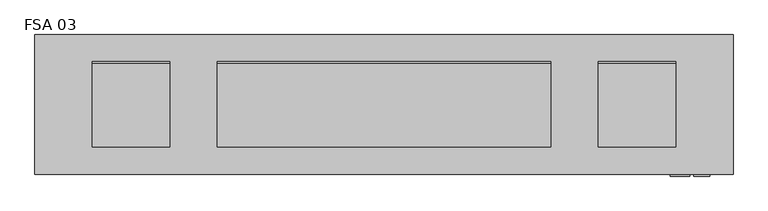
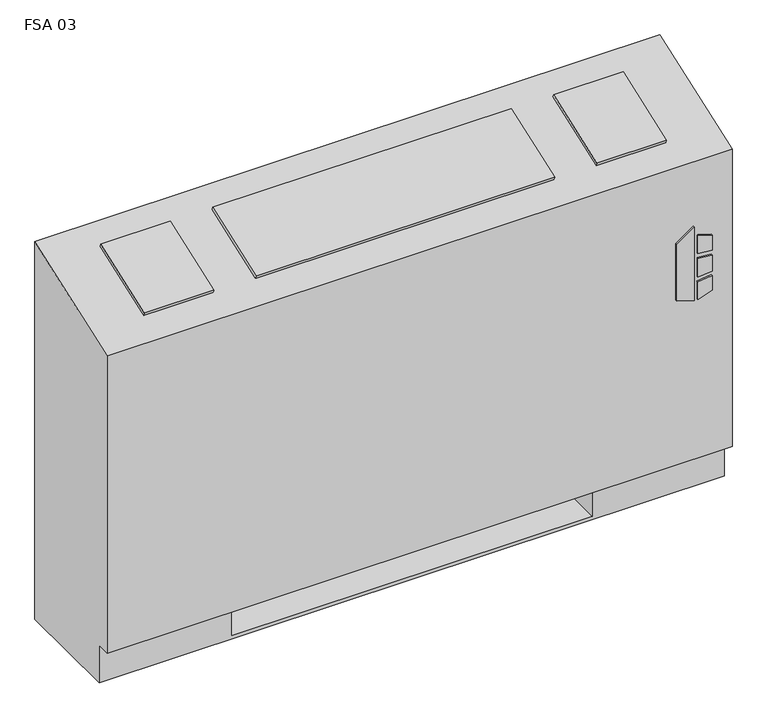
"""IFC4 building model written with IfcOpenShell, lengths in millimetres: proxy geometry, Vertical_Fan_Coil_Unit_-_FSA_-_IEC_-_4-Pipe_TS-FR_RH_2022 : FSA 03."""

from ifc_helpers import new_model, si_unit, point, frame, frame_2d, origin, place, context, project, spatial, polyline, circle_curve, trimmed, segment, composite_curve, outline, extrude, source, transform, mapped, element, save
from ifc_brep_helpers import plane_surface, revolved_surface, advanced_brep


def fsa_03_6adf4142(model_context):
    return source(origin(), model_context, "Body", "SolidModel", [
        extrude(outline(polyline([(391.6086829, 620.7868862), (381.6606126, 652.9602728), (523.831537, 652.9602728), (500.8095309, 620.7868862), (391.6086829, 620.7868862)])), frame((0.0, 12.7, 0.0), z_axis=(0.0, 1.0, 0.0), x_axis=(0.0, 0.0, 1.0)), (0.0, 0.0, 1.0), 3.175),
        extrude(outline(polyline([(470.6079683, 659.7186058), (467.4055757, 685.8), (496.6344168, 685.8), (504.6988318, 659.7186058), (470.6079683, 659.7186058)])), frame((0.0, 12.7, 0.0), z_axis=(0.0, 1.0, 0.0), x_axis=(0.0, 0.0, 1.0)), (0.0, 0.0, 1.0), 3.175),
        extrude(outline(polyline([(418.7444414, 685.8), (415.0789404, 659.7186058), (381.6606126, 659.7186058), (390.2948498, 685.8), (418.7444414, 685.8)])), frame((0.0, 12.7, 0.0), z_axis=(0.0, 1.0, 0.0), x_axis=(0.0, 0.0, 1.0)), (0.0, 0.0, 1.0), 3.175),
        extrude(outline(polyline([(458.0596028, 685.8), (460.3414292, 659.7186058), (424.4038806, 659.7186058), (427.1451456, 685.8), (458.0596028, 685.8)])), frame((0.0, 12.7, 0.0), z_axis=(0.0, 1.0, 0.0), x_axis=(0.0, 0.0, 1.0)), (0.0, 0.0, 1.0), 3.175),
        extrude(outline(polyline([(-298.45, 81.534), (-298.45, 223.266), (-177.8, 223.266), (-177.8, 81.534), (-298.45, 81.534)])), frame((0.0, 0.0, 327.025), z_axis=(0.0, 0.0, 1.0), x_axis=(1.0, 0.0, 0.0)), (0.0, 0.0, 1.0), 260.35),
        extrude(outline(composite_curve([segment(trimmed(circle_curve(frame_2d((546.1, 130.175)), 9.525), [point((536.575, 130.175))], [point((555.625, 130.175))], False, "CARTESIAN"), True, "CONTINUOUS"), segment(trimmed(circle_curve(frame_2d((546.1, 130.175)), 9.525), [point((555.625, 130.175))], [point((536.575, 130.175))], False, "CARTESIAN"), True, "CONTINUOUS")], self_intersect=False)), frame((0.0, 0.0, 101.6), z_axis=(0.0, 0.0, 1.0), x_axis=(1.0, 0.0, 0.0)), (0.0, 0.0, 1.0), 25.4),
        extrude(outline(polyline([(647.7, 196.85), (647.7, 63.5), (482.6, 63.5), (482.6, 196.85), (647.7, 196.85)])), frame((0.0, 0.0, 127.0), z_axis=(0.0, 0.0, 1.0), x_axis=(1.0, 0.0, 0.0)), (0.0, 0.0, 1.0), 50.8),
        extrude(outline(polyline([(0.0, -146.0500001), (0.0, 0.0), (127.0, 0.0), (127.0, -146.0500001), (0.0, -146.0500001)])), frame((-324.993, 200.4217127, 714.3418685), z_axis=(0.0, -0.3396444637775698, 0.9405538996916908), x_axis=(1.0, 0.0, 0.0)), (0.0, 0.0, 1.0), 6.35),
        extrude(outline(polyline([(0.0, -146.0500001), (0.0, 0.0), (546.1, 0.0), (546.1, -146.0500001), (0.0, -146.0500001)])), frame((425.45, 63.0538156, 664.7367945), z_axis=(0.0, -0.33964446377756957, 0.9405538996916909), x_axis=(-1.0, 0.0, 0.0)), (0.0, 0.0, 1.0), 6.35),
        extrude(outline(polyline([(0.0, -146.0500001), (0.0, 0.0), (127.0, 0.0), (127.0, -146.0500001), (0.0, -146.0500001)])), frame((629.793, 63.0538156, 664.7367945), z_axis=(0.0, -0.3396444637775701, 0.9405538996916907), x_axis=(-1.0, 0.0, 0.0)), (0.0, 0.0, 1.0), 6.35),
        extrude(outline(composite_curve([segment(trimmed(circle_curve(frame_2d((117.475, 472.44)), 7.9375), [point((117.475, 480.3775))], [point((117.475, 464.5025))], False, "CARTESIAN"), True, "CONTINUOUS"), segment(trimmed(circle_curve(frame_2d((117.475, 472.44)), 7.9375), [point((117.475, 464.5025))], [point((117.475, 480.3775))], False, "CARTESIAN"), True, "CONTINUOUS")], self_intersect=False)), frame((482.6, 0.0, 0.0), z_axis=(1.0, 0.0, 0.0), x_axis=(0.0, 1.0, 0.0)), (0.0, 0.0, 1.0), 50.8),
        extrude(outline(composite_curve([segment(trimmed(circle_curve(frame_2d((164.0586, 445.897)), 7.9375), [point((164.0586, 453.8345))], [point((164.0586, 437.9595))], False, "CARTESIAN"), True, "CONTINUOUS"), segment(trimmed(circle_curve(frame_2d((164.0586, 445.897)), 7.9375), [point((164.0586, 437.9595))], [point((164.0586, 453.8345))], False, "CARTESIAN"), True, "CONTINUOUS")], self_intersect=False)), frame((482.6, 0.0, 0.0), z_axis=(1.0, 0.0, 0.0), x_axis=(0.0, 1.0, 0.0)), (0.0, 0.0, 1.0), 50.8),
        extrude(outline(composite_curve([segment(trimmed(circle_curve(frame_2d((130.175, 554.99)), 7.9502), [point((130.175, 562.9402))], [point((130.175, 547.0398))], False, "CARTESIAN"), True, "CONTINUOUS"), segment(trimmed(circle_curve(frame_2d((130.175, 554.99)), 7.9502), [point((130.175, 547.0398))], [point((130.175, 562.9402))], False, "CARTESIAN"), True, "CONTINUOUS")], self_intersect=False)), frame((482.6, 0.0, 0.0), z_axis=(1.0, 0.0, 0.0), x_axis=(0.0, 1.0, 0.0)), (0.0, 0.0, 1.0), 50.8),
        extrude(outline(composite_curve([segment(trimmed(circle_curve(frame_2d((53.975, 416.56)), 7.9502), [point((53.975, 424.5102))], [point((53.975, 408.6098))], False, "CARTESIAN"), True, "CONTINUOUS"), segment(trimmed(circle_curve(frame_2d((53.975, 416.56)), 7.9502), [point((53.975, 408.6098))], [point((53.975, 424.5102))], False, "CARTESIAN"), True, "CONTINUOUS")], self_intersect=False)), frame((482.6, 0.0, 0.0), z_axis=(1.0, 0.0, 0.0), x_axis=(0.0, 1.0, 0.0)), (0.0, 0.0, 1.0), 50.8),
        advanced_brep(
        [(-419.1, 244.475, 0.0), (723.9, 244.475, 0.0), (723.9, 41.275, 0.0), (-419.1, 41.275, 0.0), (-419.1, 244.475, 730.25), (723.9, 244.475, 730.25), (482.6, 244.475, 73.025), (711.2, 244.475, 73.025), (711.2, 244.475, 654.05), (482.6, 244.475, 654.05), (482.6, 244.475, 414.8650565), (511.175, 244.475, 414.8650565), (511.175, 244.475, 385.2349435), (482.6, 244.475, 385.2349435), (482.6, 244.475, 287.3375), (511.175, 244.475, 287.3375), (511.175, 244.475, 258.7625), (482.6, 244.475, 258.7625), (482.6, 244.475, 141.2875), (511.175, 244.475, 141.2875), (511.175, 244.475, 112.7125), (482.6, 244.475, 112.7125), (-177.8, 244.475, 654.05), (-406.4, 244.475, 654.05), (-406.4, 244.475, 73.025), (-177.8, 244.475, 73.025), (-177.8, 244.475, 112.7125), (-206.375, 244.475, 112.7125), (-206.375, 244.475, 141.2875), (-177.8, 244.475, 141.2875), (-177.8, 244.475, 258.7625), (-206.375, 244.475, 258.7625), (-206.375, 244.475, 287.3375), (-177.8, 244.475, 287.3375), (-177.8, 244.475, 385.2349435), (-206.375, 244.475, 385.2349435), (-206.375, 244.475, 414.8650565), (-177.8, 244.475, 414.8650565), (500.8626, 244.475, 127.0), (489.7374, 244.475, 127.0), (500.8626, 244.475, 400.05), (489.7374, 244.475, 400.05), (500.8626, 244.475, 273.05), (489.7374, 244.475, 273.05), (-184.9374, 244.475, 127.0), (-196.0626, 244.475, 127.0), (-184.9374, 244.475, 273.05), (-196.0626, 244.475, 273.05), (-184.9374, 244.475, 400.05), (-196.0626, 244.475, 400.05), (-419.1, 41.275, 73.025), (-419.1, 15.875, 73.025), (-419.1, 15.875, 647.7), (723.9, 15.875, 73.025), (723.9, 15.875, 647.7), (723.9, 41.275, 73.025), (-177.8, 41.275, 73.025), (-177.8, 225.425, 73.025), (482.6, 225.425, 73.025), (482.6, 41.275, 73.025), (482.6, 41.275, 6.35), (-177.8, 41.275, 6.35), (482.6, 41.275, 654.05), (711.2, 41.275, 654.05), (711.2, 41.275, 73.025), (482.6, 41.275, 73.025), (-177.8, 41.275, 654.05), (-177.8, 41.275, 73.025), (-406.4, 41.275, 73.025), (-406.4, 41.275, 654.05), (482.6, 225.425, 73.025), (482.6, 238.125, 112.7125), (482.6, 238.125, 141.2875), (482.6, 238.125, 258.7625), (482.6, 238.125, 287.3375), (482.6, 238.125, 385.2349435), (482.6, 238.125, 414.8650565), (-177.8, 225.425, 73.025), (-177.8, 238.125, 414.8650565), (-177.8, 238.125, 385.2349435), (-177.8, 238.125, 287.3375), (-177.8, 238.125, 258.7625), (-177.8, 238.125, 141.2875), (-177.8, 238.125, 112.7125), (-177.8, 225.425, 6.35), (482.6, 225.425, 6.35), (511.175, 238.125, 112.7125), (511.175, 238.125, 141.2875), (489.7374, 238.125, 127.0), (500.8626, 238.125, 127.0), (511.175, 238.125, 258.7625), (511.175, 238.125, 287.3375), (489.7374, 238.125, 273.05), (500.8626, 238.125, 273.05), (511.175, 238.125, 385.2349435), (511.175, 238.125, 414.8650565), (489.7374, 238.125, 400.05), (500.8626, 238.125, 400.05), (-206.375, 238.125, 141.2875), (-206.375, 238.125, 112.7125), (-196.0626, 238.125, 127.0), (-184.9374, 238.125, 127.0), (-206.375, 238.125, 287.3375), (-206.375, 238.125, 258.7625), (-196.0626, 238.125, 273.05), (-184.9374, 238.125, 273.05), (-206.375, 238.125, 414.8650565), (-206.375, 238.125, 385.2349435), (-196.0626, 238.125, 400.05), (-184.9374, 238.125, 400.05)],
        [
            (0, 1),
            (1, 2),
            (2, 3),
            (3, 0),
            (0, 4),
            (4, 5),
            (5, 1),
            (6, 7),
            (7, 8),
            (8, 9),
            (9, 10),
            (10, 11),
            (11, 12),
            (12, 13),
            (13, 14),
            (14, 15),
            (15, 16),
            (16, 17),
            (17, 18),
            (18, 19),
            (19, 20),
            (20, 21),
            (21, 6),
            (22, 23),
            (23, 24),
            (24, 25),
            (25, 26),
            (26, 27),
            (27, 28),
            (28, 29),
            (29, 30),
            (30, 31),
            (31, 32),
            (32, 33),
            (33, 34),
            (34, 35),
            (35, 36),
            (36, 37),
            (37, 22),
            (38, 39, circle_curve(frame((495.3, 244.475, 127.0), z_axis=(0.0, -1.0, 0.0), x_axis=(-1.0, 0.0, 0.0)), 5.5626)),
            (39, 38, circle_curve(frame((495.3, 244.475, 127.0), z_axis=(0.0, -1.0, 0.0), x_axis=(-1.0, 0.0, 0.0)), 5.5626)),
            (40, 41, circle_curve(frame((495.3, 244.475, 400.05), z_axis=(0.0, -1.0, 0.0), x_axis=(-1.0, 0.0, 0.0)), 5.5626)),
            (41, 40, circle_curve(frame((495.3, 244.475, 400.05), z_axis=(0.0, -1.0, 0.0), x_axis=(-1.0, 0.0, 0.0)), 5.5626)),
            (42, 43, circle_curve(frame((495.3, 244.475, 273.05), z_axis=(0.0, -1.0, 0.0), x_axis=(-1.0, 0.0, 0.0)), 5.5626)),
            (43, 42, circle_curve(frame((495.3, 244.475, 273.05), z_axis=(0.0, -1.0, 0.0), x_axis=(-1.0, 0.0, 0.0)), 5.5626)),
            (44, 45, circle_curve(frame((-190.5, 244.475, 127.0), z_axis=(0.0, -1.0, 0.0), x_axis=(-1.0, 0.0, 0.0)), 5.5626)),
            (45, 44, circle_curve(frame((-190.5, 244.475, 127.0), z_axis=(0.0, -1.0, 0.0), x_axis=(-1.0, 0.0, 0.0)), 5.5626)),
            (46, 47, circle_curve(frame((-190.5, 244.475, 273.05), z_axis=(0.0, -1.0, 0.0), x_axis=(-1.0, 0.0, 0.0)), 5.5626)),
            (47, 46, circle_curve(frame((-190.5, 244.475, 273.05), z_axis=(0.0, -1.0, 0.0), x_axis=(-1.0, 0.0, 0.0)), 5.5626)),
            (48, 49, circle_curve(frame((-190.5, 244.475, 400.05), z_axis=(0.0, -1.0, 0.0), x_axis=(-1.0, 0.0, 0.0)), 5.5626)),
            (49, 48, circle_curve(frame((-190.5, 244.475, 400.05), z_axis=(0.0, -1.0, 0.0), x_axis=(-1.0, 0.0, 0.0)), 5.5626)),
            (3, 50),
            (50, 51),
            (51, 52),
            (52, 4),
            (51, 53),
            (53, 54),
            (54, 52),
            (5, 54),
            (53, 55),
            (55, 2),
            (50, 56),
            (56, 57),
            (57, 58),
            (58, 59),
            (59, 55),
            (59, 60),
            (60, 61),
            (61, 56),
            (62, 63),
            (63, 64),
            (64, 65),
            (65, 62),
            (66, 67),
            (67, 68),
            (68, 69),
            (69, 66),
            (65, 70),
            (70, 6),
            (21, 71),
            (71, 72),
            (72, 18),
            (17, 73),
            (73, 74),
            (74, 14),
            (13, 75),
            (75, 76),
            (76, 10),
            (9, 62),
            (64, 7),
            (63, 8),
            (69, 23),
            (22, 66),
            (68, 24),
            (67, 77),
            (77, 25),
            (37, 78),
            (78, 79),
            (79, 34),
            (33, 80),
            (80, 81),
            (81, 30),
            (29, 82),
            (82, 83),
            (83, 26),
            (57, 84),
            (84, 85),
            (85, 58),
            (85, 60),
            (84, 61),
            (71, 86),
            (86, 87),
            (87, 72),
            (88, 89, circle_curve(frame((495.3, 238.125, 127.0), z_axis=(0.0, 1.0, 0.0), x_axis=(-1.0, 0.0, 0.0)), 5.5626)),
            (89, 88, circle_curve(frame((495.3, 238.125, 127.0), z_axis=(0.0, 1.0, 0.0), x_axis=(-1.0, 0.0, 0.0)), 5.5626)),
            (73, 90),
            (90, 91),
            (91, 74),
            (92, 93, circle_curve(frame((495.3, 238.125, 273.05), z_axis=(0.0, 1.0, 0.0), x_axis=(-1.0, 0.0, 0.0)), 5.5626)),
            (93, 92, circle_curve(frame((495.3, 238.125, 273.05), z_axis=(0.0, 1.0, 0.0), x_axis=(-1.0, 0.0, 0.0)), 5.5626)),
            (75, 94),
            (94, 95),
            (95, 76),
            (96, 97, circle_curve(frame((495.3, 238.125, 400.05), z_axis=(0.0, 1.0, 0.0), x_axis=(-1.0, 0.0, 0.0)), 5.5626)),
            (97, 96, circle_curve(frame((495.3, 238.125, 400.05), z_axis=(0.0, 1.0, 0.0), x_axis=(-1.0, 0.0, 0.0)), 5.5626)),
            (98, 99),
            (99, 83),
            (82, 98),
            (100, 101, circle_curve(frame((-190.5, 238.125, 127.0), z_axis=(0.0, 1.0, 0.0), x_axis=(-1.0, 0.0, 0.0)), 5.5626)),
            (101, 100, circle_curve(frame((-190.5, 238.125, 127.0), z_axis=(0.0, 1.0, 0.0), x_axis=(-1.0, 0.0, 0.0)), 5.5626)),
            (102, 103),
            (103, 81),
            (80, 102),
            (104, 105, circle_curve(frame((-190.5, 238.125, 273.05), z_axis=(0.0, 1.0, 0.0), x_axis=(-1.0, 0.0, 0.0)), 5.5626)),
            (105, 104, circle_curve(frame((-190.5, 238.125, 273.05), z_axis=(0.0, 1.0, 0.0), x_axis=(-1.0, 0.0, 0.0)), 5.5626)),
            (106, 107),
            (107, 79),
            (78, 106),
            (108, 109, circle_curve(frame((-190.5, 238.125, 400.05), z_axis=(0.0, 1.0, 0.0), x_axis=(-1.0, 0.0, 0.0)), 5.5626)),
            (109, 108, circle_curve(frame((-190.5, 238.125, 400.05), z_axis=(0.0, 1.0, 0.0), x_axis=(-1.0, 0.0, 0.0)), 5.5626)),
            (87, 19),
            (86, 20),
            (91, 15),
            (90, 16),
            (95, 11),
            (94, 12),
            (28, 98),
            (99, 27),
            (32, 102),
            (103, 31),
            (36, 106),
            (107, 35),
            (88, 39),
            (38, 89),
            (96, 41),
            (40, 97),
            (92, 43),
            (42, 93),
            (100, 45),
            (44, 101),
            (104, 47),
            (46, 105),
            (108, 49),
            (48, 109),
        ],
        [
            plane_surface(frame((-419.1, 244.475, 0.0), z_axis=(0.0, 0.0, -1.0), x_axis=(1.0, 0.0, 0.0))),
            plane_surface(frame((723.9, 244.475, 730.25), z_axis=(0.0, 1.0, 0.0), x_axis=(0.0, 0.0, -1.0))),
            plane_surface(frame((-419.1, 244.475, 730.25), z_axis=(-1.0, 0.0, 0.0), x_axis=(0.0, 0.0, -1.0))),
            plane_surface(frame((-419.1, 15.875, 730.25), z_axis=(0.0, -1.0, 0.0), x_axis=(0.0, 0.0, -1.0))),
            plane_surface(frame((723.9, 15.875, 730.25), z_axis=(1.0, 0.0, 0.0), x_axis=(0.0, 0.0, -1.0))),
            plane_surface(frame((-419.1, 15.875, 73.025), z_axis=(0.0, 0.0, -1.0), x_axis=(1.0, 0.0, 0.0))),
            plane_surface(frame((-419.1, 41.275, 73.025), z_axis=(0.0, -1.0, 0.0), x_axis=(1.0, 0.0, 0.0))),
            plane_surface(frame((482.6, 41.275, 654.05), z_axis=(0.0, 1.0, 0.0), x_axis=(0.0, 0.0, -1.0))),
            plane_surface(frame((482.6, 41.275, 654.05), z_axis=(1.0, 0.0, 0.0), x_axis=(0.0, 1.0, 0.0))),
            plane_surface(frame((482.6, 41.275, 73.025), z_axis=(0.0, 0.0, 1.0), x_axis=(0.0, 1.0, 0.0))),
            plane_surface(frame((711.2, 41.275, 73.025), z_axis=(-1.0, 0.0, 0.0), x_axis=(0.0, 1.0, 0.0))),
            plane_surface(frame((711.2, 41.275, 654.05), z_axis=(0.0, 0.0, -1.0), x_axis=(0.0, 1.0, 0.0))),
            plane_surface(frame((-177.8, 41.275, 654.05), z_axis=(0.0, 0.0, -1.0), x_axis=(0.0, 1.0, 0.0))),
            plane_surface(frame((-406.4, 41.275, 654.05), z_axis=(1.0, 0.0, 0.0), x_axis=(0.0, 1.0, 0.0))),
            plane_surface(frame((-406.4, 41.275, 73.025), z_axis=(0.0, 0.0, 1.0), x_axis=(0.0, 1.0, 0.0))),
            plane_surface(frame((-177.8, 41.275, 73.025), z_axis=(-1.0, 0.0, 0.0), x_axis=(0.0, 1.0, 0.0))),
            plane_surface(frame((482.6, 225.425, 73.025), z_axis=(0.0, -1.0, 0.0), x_axis=(0.0, 0.0, -1.0))),
            plane_surface(frame((482.6, 225.425, 73.025), z_axis=(-1.0, 0.0, 0.0), x_axis=(0.0, -1.0, 0.0))),
            plane_surface(frame((482.6, 225.425, 6.35), z_axis=(0.0, 0.0, 1.0), x_axis=(0.0, -1.0, 0.0))),
            plane_surface(frame((-177.8, 225.425, 6.35), z_axis=(1.0, 0.0, 0.0), x_axis=(0.0, -1.0, 0.0))),
            plane_surface(frame((511.175, 238.125, 141.2875), z_axis=(0.0, -1.0, 0.0), x_axis=(-1.0, 0.0, 0.0))),
            plane_surface(frame((482.6, 244.475, 141.2875), z_axis=(0.0, 0.0, 1.0), x_axis=(0.0, -1.0, 0.0))),
            plane_surface(frame((511.175, 244.475, 141.2875), z_axis=(1.0, 0.0, 0.0), x_axis=(0.0, -1.0, 0.0))),
            plane_surface(frame((511.175, 244.475, 112.7125), z_axis=(0.0, 0.0, -1.0), x_axis=(0.0, -1.0, 0.0))),
            plane_surface(frame((482.6, 244.475, 287.3375), z_axis=(0.0, 0.0, 1.0), x_axis=(0.0, -1.0, 0.0))),
            plane_surface(frame((511.175, 244.475, 287.3375), z_axis=(1.0, 0.0, 0.0), x_axis=(0.0, -1.0, 0.0))),
            plane_surface(frame((511.175, 244.475, 258.7625), z_axis=(0.0, 0.0, -1.0), x_axis=(0.0, -1.0, 0.0))),
            plane_surface(frame((482.6, 244.475, 414.8650565), z_axis=(0.0, 0.0, 1.0), x_axis=(0.0, -1.0, 0.0))),
            plane_surface(frame((511.175, 244.475, 414.8650565), z_axis=(1.0, 0.0, 0.0), x_axis=(0.0, -1.0, 0.0))),
            plane_surface(frame((511.175, 244.475, 385.2349435), z_axis=(0.0, 0.0, -1.0), x_axis=(0.0, -1.0, 0.0))),
            plane_surface(frame((-206.375, 244.475, 141.2875), z_axis=(0.0, 0.0, 1.0), x_axis=(0.0, -1.0, 0.0))),
            plane_surface(frame((-177.8, 244.475, 112.7125), z_axis=(0.0, 0.0, -1.0), x_axis=(0.0, -1.0, 0.0))),
            plane_surface(frame((-206.375, 244.475, 112.7125), z_axis=(-1.0, 0.0, 0.0), x_axis=(0.0, -1.0, 0.0))),
            plane_surface(frame((-206.375, 244.475, 287.3375), z_axis=(0.0, 0.0, 1.0), x_axis=(0.0, -1.0, 0.0))),
            plane_surface(frame((-177.8, 244.475, 258.7625), z_axis=(0.0, 0.0, -1.0), x_axis=(0.0, -1.0, 0.0))),
            plane_surface(frame((-206.375, 244.475, 258.7625), z_axis=(-1.0, 0.0, 0.0), x_axis=(0.0, -1.0, 0.0))),
            plane_surface(frame((-206.375, 244.475, 414.8650565), z_axis=(0.0, 0.0, 1.0), x_axis=(0.0, -1.0, 0.0))),
            plane_surface(frame((-177.8, 244.475, 385.2349435), z_axis=(0.0, 0.0, -1.0), x_axis=(0.0, -1.0, 0.0))),
            plane_surface(frame((-206.375, 244.475, 385.2349435), z_axis=(-1.0, 0.0, 0.0), x_axis=(0.0, -1.0, 0.0))),
            revolved_surface(polyline([(489.73740000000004, 238.125, 127.0), (489.73740000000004, 244.475, 127.0)]), (495.3, 244.475, 127.0), (0.0, -1.0, 0.0)),
            revolved_surface(polyline([(489.73740000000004, 238.125, 400.05), (489.73740000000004, 244.475, 400.05)]), (495.3, 244.475, 400.05), (0.0, -1.0, 0.0)),
            revolved_surface(polyline([(489.73740000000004, 238.125, 273.05), (489.73740000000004, 244.475, 273.05)]), (495.3, 244.475, 273.05), (0.0, -1.0, 0.0)),
            revolved_surface(polyline([(-196.0626, 238.125, 127.0), (-196.0626, 244.475, 127.0)]), (-190.5, 244.475, 127.0), (0.0, -1.0, 0.0)),
            revolved_surface(polyline([(-196.0626, 238.125, 273.05), (-196.0626, 244.475, 273.05)]), (-190.5, 244.475, 273.05), (0.0, -1.0, 0.0)),
            revolved_surface(polyline([(-196.0626, 238.125, 400.05), (-196.0626, 244.475, 400.05)]), (-190.5, 244.475, 400.05), (0.0, -1.0, 0.0)),
            plane_surface(frame((-419.1, 244.475, 730.25), z_axis=(0.0, -0.33964446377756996, 0.9405538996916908), x_axis=(1.0, 0.0, 0.0))),
        ],
        [
            (0, [[1, 2, 3, 4]]),
            (1, [[-1, 5, 6, 7], [8, 9, 10, 11, 12, 13, 14, 15, 16, 17, 18, 19, 20, 21, 22, 23], [24, 25, 26, 27, 28, 29, 30, 31, 32, 33, 34, 35, 36, 37, 38, 39], [40, 41], [42, 43], [44, 45], [46, 47], [48, 49], [50, 51]]),
            (2, [[-5, -4, 52, 53, 54, 55]]),
            (3, [[56, 57, 58, -54]]),
            (4, [[-7, 59, -57, 60, 61, -2]]),
            (5, [[-53, 62, 63, 64, 65, 66, -60, -56]]),
            (6, [[-3, -61, -66, 67, 68, 69, -62, -52]]),
            (7, [[70, 71, 72, 73]]),
            (7, [[74, 75, 76, 77]]),
            (8, [[-73, 78, 79, -23, 80, 81, 82, -19, 83, 84, 85, -15, 86, 87, 88, -11, 89]]),
            (9, [[-72, 90, -8, -79, -78]]),
            (10, [[-71, 91, -9, -90]]),
            (11, [[-70, -89, -10, -91]]),
            (12, [[-77, 92, -24, 93]]),
            (13, [[-76, 94, -25, -92]]),
            (14, [[-75, 95, 96, -26, -94]]),
            (15, [[-74, -93, -39, 97, 98, 99, -35, 100, 101, 102, -31, 103, 104, 105, -27, -96, -95]]),
            (16, [[-64, 106, 107, 108]]),
            (17, [[-108, 109, -67, -65]]),
            (18, [[-107, 110, -68, -109]]),
            (19, [[-106, -63, -69, -110]]),
            (20, [[111, 112, 113, -81], [114, 115]]),
            (20, [[116, 117, 118, -84], [119, 120]]),
            (20, [[121, 122, 123, -87], [124, 125]]),
            (20, [[126, 127, -104, 128], [129, 130]]),
            (20, [[131, 132, -101, 133], [134, 135]]),
            (20, [[136, 137, -98, 138], [139, 140]]),
            (21, [[-113, 141, -20, -82]]),
            (22, [[-112, 142, -21, -141]]),
            (23, [[-111, -80, -22, -142]]),
            (24, [[-118, 143, -16, -85]]),
            (25, [[-117, 144, -17, -143]]),
            (26, [[-116, -83, -18, -144]]),
            (27, [[-123, 145, -12, -88]]),
            (28, [[-122, 146, -13, -145]]),
            (29, [[-121, -86, -14, -146]]),
            (30, [[-128, -103, -30, 147]]),
            (31, [[-127, 148, -28, -105]]),
            (32, [[-126, -147, -29, -148]]),
            (33, [[-133, -100, -34, 149]]),
            (34, [[-132, 150, -32, -102]]),
            (35, [[-131, -149, -33, -150]]),
            (36, [[-138, -97, -38, 151]]),
            (37, [[-137, 152, -36, -99]]),
            (38, [[-136, -151, -37, -152]]),
            (39, [[153, -40, 154, -114]]),
            (39, [[-153, -115, -154, -41]]),
            (40, [[155, -42, 156, -124]]),
            (40, [[-155, -125, -156, -43]]),
            (41, [[157, -44, 158, -119]]),
            (41, [[-157, -120, -158, -45]]),
            (42, [[159, -46, 160, -129]]),
            (42, [[-159, -130, -160, -47]]),
            (43, [[161, -48, 162, -134]]),
            (43, [[-161, -135, -162, -49]]),
            (44, [[163, -50, 164, -139]]),
            (44, [[-163, -140, -164, -51]]),
            (45, [[-6, -55, -58, -59]]),
        ],
    ),
    ])


if __name__ == "__main__":
    model = new_model("IFC4")
    model_context = context("Model", 3, world=origin())
    ifc_project = project(units=[si_unit("LENGTHUNIT", "METRE", prefix="MILLI")], contexts=[model_context])
    site = spatial("IfcSite", under=ifc_project)
    building = spatial("IfcBuilding", under=site)
    placement = place(None, origin())
    fsa_03_shape = fsa_03_6adf4142(model_context)
    element("IfcBuildingElementProxy", 1, Name="Vertical_Fan_Coil_Unit_-_FSA_-_IEC_-_4-Pipe_TS-FR_RH_2022 : FSA 03", ObjectType="Vertical_Fan_Coil_Unit_-_FSA_-_IEC_-_4-Pipe_TS-FR_RH_2022 : FSA 03", at=placement, inside=building, context=model_context, shape_type="MappedRepresentation", body=[
        mapped(fsa_03_shape, transform((0.0, 0.0, 0.0), x_axis=(1.0, 0.0, 0.0), y_axis=(0.0, 1.0, 0.0), z_axis=(0.0, 0.0, 1.0))),
    ])
    save(model, "model.ifc")
